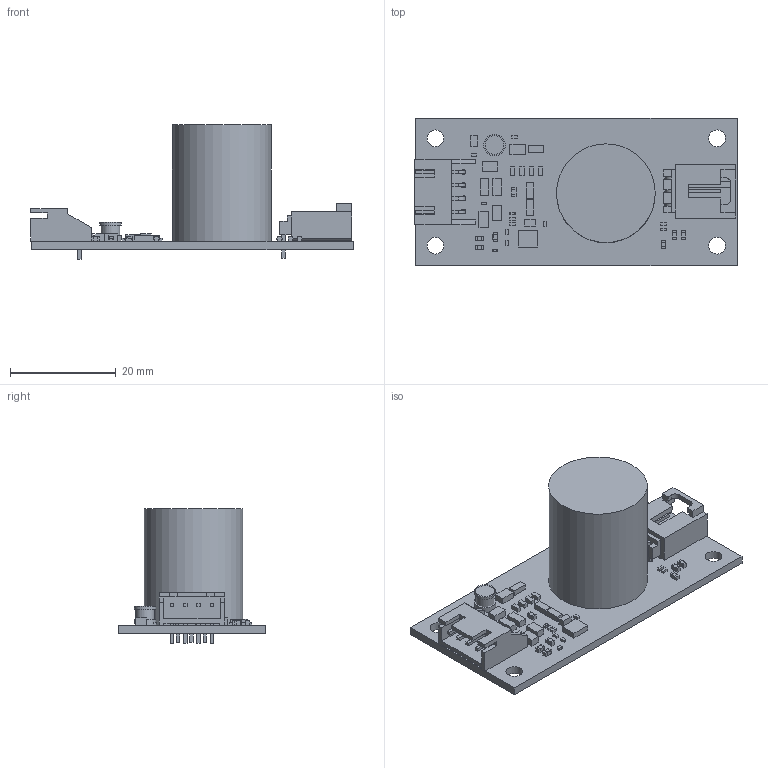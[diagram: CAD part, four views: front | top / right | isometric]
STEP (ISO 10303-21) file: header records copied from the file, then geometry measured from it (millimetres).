
FILE_DESCRIPTION(('Open CASCADE Model'),'2;1');
FILE_NAME('Open CASCADE Shape Model','2012-05-24T13:07:24',('Author'),( 'Open CASCADE'),'Open CASCADE STEP processor 6.2','Open CASCADE 6.2' ,'Unknown');
FILE_SCHEMA(('AUTOMOTIVE_DESIGN { 1 0 10303 214 1 1 1 1 }'));
Length unit declared in the file: millimetre
Products named in the file (89): PCB; Board; C1; 886104224; Cylinder; J2; S4B-XH-A; C13; 701863920; Extruded; C12; C11; D2; 886117280; U5; 886109856; U3; 872653152; U2; 469648016; U1; 886112800; R8; R7; 851205744; R6; R5; R4; R3; 886109600; R2; 701842800; R1; L1; 715274232; 715271472; 715271352; J1; 705530002; Open CASCADE STEP translator 6.2 11.21.1.1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
Assembly tree (114 placements, depth 4):
  PCB
    Board
    C1
      886104224
        Cylinder
    J2
      S4B-XH-A
    C13
      701863920
        Extruded
    C12
      701863920
        Extruded
    C11
      701863920
        Extruded
    D2
      886117280
        Extruded
    U5
      886109856
        Extruded
    U3
      872653152
        Extruded
    U2
      469648016
        Extruded
    U1
      886112800
        Extruded
    R8
      701863920
        Extruded
    R7
      851205744
        Extruded
    R6
      851205744
        Extruded
    R5
      701863920
        Extruded
    R4
      701863920
        Extruded
    R3
      886109600
        Extruded
    R2
      701842800
        Extruded
    R1
      701842800
        Extruded
    L1
      715274232
        Cylinder
      715271472
        Cylinder
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Bounding box: 61.07 x 27.94 x 25.4 mm (x, y, z)
Volume: 9591.8 mm3; surface area: 7633 mm2
Topology: 51 solids, 51 shells, 496 faces, 1139 edges, 764 vertices
Faces by surface type: plane 463, cylinder 33
Full cylindrical faces by diameter (mm): 0.889 x4, 0.965 x3, 1.321 x2, 3.175 x4, 3.556 x1, 4.064 x2, 18.7 x1
Entity records: 23334 total; most frequent: CARTESIAN_POINT 4225, DIRECTION 3325, LINE 2253, VECTOR 2253, ORIENTED_EDGE 1636, PCURVE 1636, DEFINITIONAL_REPRESENTATION 1636, EDGE_CURVE 818
